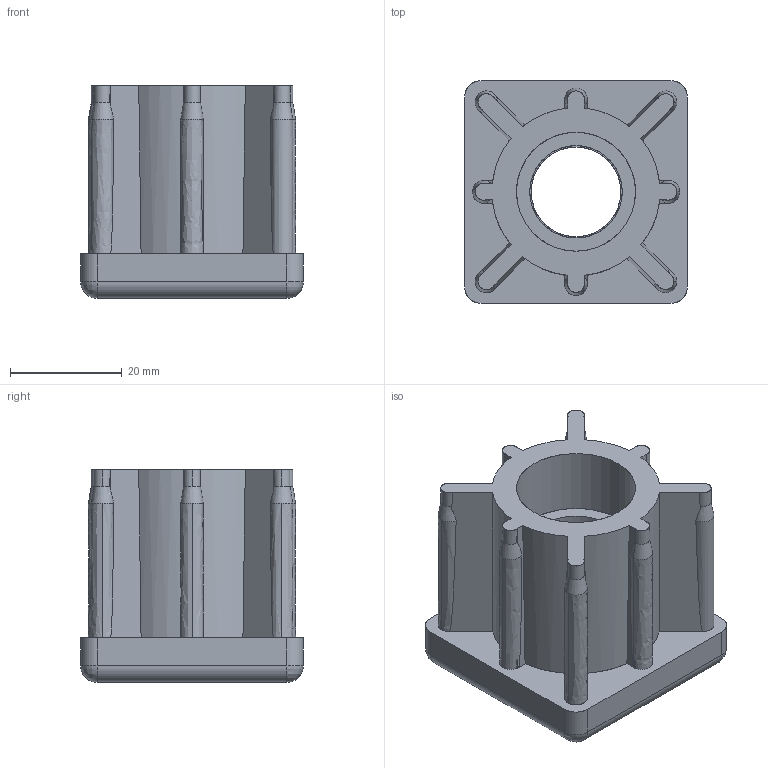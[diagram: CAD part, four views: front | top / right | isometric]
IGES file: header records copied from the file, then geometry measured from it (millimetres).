
Start section: SolidWorks IGES file using analytic representation for surfaces
Global section: file name: Y:\Tecnodin, S.L\Planos Clientes - Documentos\General\PLANOS CLIENTES\3D\-REVISAR-\CONTERAS TECOM\42006840216.IGS; native system: SolidWorks 2018; preprocessor: SolidWorks 2018; author: GerPro; date: 200226.114022; units: millimetre
Bounding box: 39.8 x 39.8 x 38 mm (x, y, z)
Surface area: 13444.7 mm2 (no closed solid volume)
Topology: 0 solids, 0 shells, 134 faces, 1486 edges, 1482 vertices
Faces by surface type: revolution 79, bspline 55
